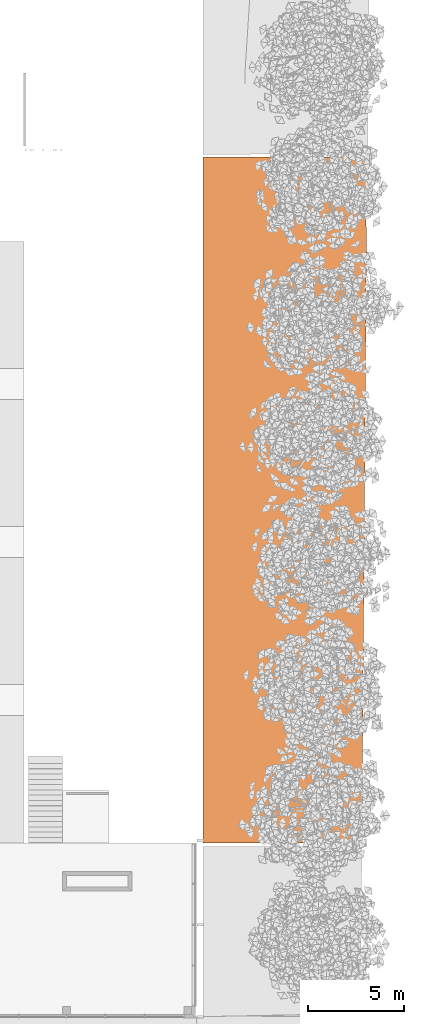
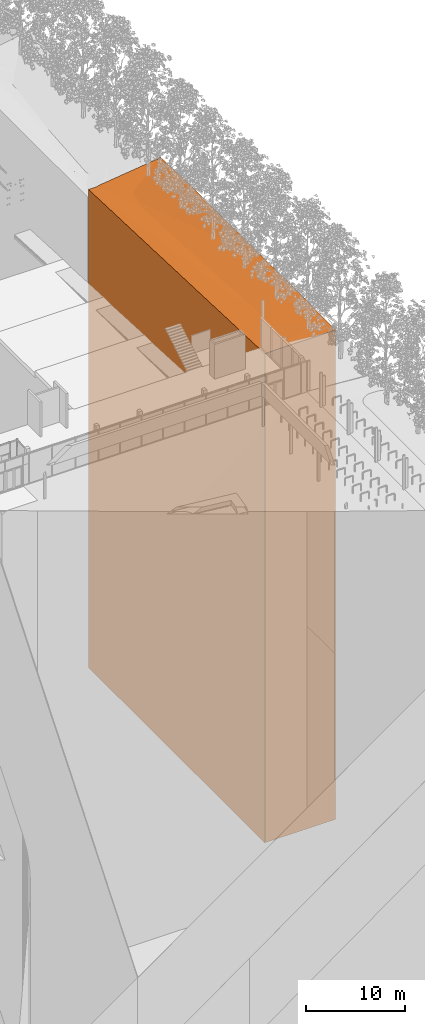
# One storey, part 58 of 69: 1 proxy.
"""IFC2X3 building model written with IfcOpenShell, lengths in millimetres."""

from ifc_helpers import new_model, entity, si_unit, converted_unit, derived_unit, money_unit, direction, frame, origin_with_axes, place, context, subcontext, project, spatial, faceted_brep, material, type_object, element, save


model = new_model("IFC2X3")

# Units and contexts
model_context = context("Model", 3, precision=0.01, world=origin_with_axes(), true_north=direction((0.0, 1.0)))
body_context = subcontext(model_context, "Body", "Model", "MODEL_VIEW")
ifc_project = project(units=[si_unit("LENGTHUNIT", "METRE", prefix="MILLI"), si_unit("AREAUNIT", "SQUARE_METRE"), si_unit("VOLUMEUNIT", "CUBIC_METRE"), converted_unit("PLANEANGLEUNIT", "DEGREE", entity("IfcPlaneAngleMeasure", 0.0174532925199), si_unit("PLANEANGLEUNIT", "RADIAN"), dimensions=[0, 0, 0, 0, 0, 0, 0]), si_unit("SOLIDANGLEUNIT", "STERADIAN"), money_unit("EUR"), converted_unit("TIMEUNIT", "Year", entity("IfcTimeMeasure", 31556926.0), si_unit("TIMEUNIT", "SECOND"), dimensions=[0, 0, 1, 0, 0, 0, 0]), si_unit("MASSUNIT", "GRAM", prefix="KILO"), si_unit("THERMODYNAMICTEMPERATUREUNIT", "DEGREE_CELSIUS"), si_unit("LUMINOUSINTENSITYUNIT", "LUMEN"), si_unit("ENERGYUNIT", "JOULE", prefix="MEGA"), derived_unit("THERMALCONDUCTANCEUNIT", [(si_unit("POWERUNIT", "WATT"), 1), (si_unit("LENGTHUNIT", "METRE"), -1), (si_unit("THERMODYNAMICTEMPERATUREUNIT", "KELVIN"), -1)]), derived_unit("SPECIFICHEATCAPACITYUNIT", [(si_unit("ENERGYUNIT", "JOULE"), 1), (si_unit("MASSUNIT", "GRAM", prefix="KILO"), -1), (si_unit("THERMODYNAMICTEMPERATUREUNIT", "KELVIN"), -1)]), derived_unit("MASSDENSITYUNIT", [(si_unit("MASSUNIT", "GRAM", prefix="KILO"), 1), (si_unit("VOLUMEUNIT", "CUBIC_METRE"), -1)])], contexts=[model_context])

# Site, building, storey
site_placement = place(None, origin_with_axes())
site = spatial("IfcSite", under=ifc_project, at=site_placement, Name="Puškini 31, Narva", CompositionType="ELEMENT")
building_placement = place(site_placement, origin_with_axes())
building = spatial("IfcBuilding", under=site, at=building_placement, Name="Narva Riigigümnaasium", CompositionType="ELEMENT")
storey_placement = place(building_placement, origin_with_axes())
storey = spatial("IfcBuildingStorey", under=building, at=storey_placement, Name="1.korrus 0.00", CompositionType="ELEMENT", Elevation=0.0)

# Proxy
ifc_material = material(Name="Roheala")
building_element_proxy_type = type_object("IfcBuildingElementProxyType", Name="Roheala", PredefinedType="NOTDEFINED")
proxy_placement = place(storey_placement, frame((54778.6694308, 158996.031273, -61100.0), z_axis=(0.0, 0.0, 1.0), x_axis=(1.0, 0.0, 0.0)))
element("IfcBuildingElementProxy", 1, at=proxy_placement, inside=storey, type_object=building_element_proxy_type, material=ifc_material, Name="Roheala", context=body_context, shape_type="Brep", body=[
    faceted_brep([(3500.49904039, 31978.4516737, 58700.0), (3547.46548911, 32819.027332, 58700.0), (3094.74954853, 33146.2784232, 58700.0), (1672.0854149, 34165.5938571, 58700.0), (3131.45778245, 30387.4172015, 58700.0), (3458.85388956, 31334.3745493, 58700.0), (3887.26198258, 31401.5875902, 58800.0), (3981.19487992, 33082.7389069, 58800.0), (3075.76299861, 33737.2410875, 58800.0), (379.368384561, 35568.9687269, 58791.5800994), (310.353931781, 35568.9687269, 58800.0), (3149.17946646, 28219.5186449, 58800.0), (3803.97168068, 30113.4333396, 58800.0), (4274.02492453, 30824.7235059, 58900.0), (4414.9242706, 33346.4504808, 58900.0), (3056.7764487, 34328.2037526, 58900.0), (891.573820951, 35568.9687269, 58800.0), (810.14826884, 35568.9687269, 58790.8807867), (1.33055712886, 35568.9687269, 0.0), (1.33055712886, 35568.9687269, 58810.873961), (16.9692754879, 35568.9687269, 58811.5973403), (253.567385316, 35568.9687269, 58805.5881932), (269.252218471, 35568.9687269, 58805.0144908), (961.462900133, 35568.9687269, 58810.1925286), (1325.03397982, 35568.9687269, 58900.0), (2130.85725753, 35568.9687269, 59000.0), (2936.6805356, 35568.9687269, 59100.0), (2959.39697059, 35568.9687269, 59100.0), (3091.57896127, 35568.9687269, 59117.0641552), (3112.10713856, 35568.9687269, 59121.8775259), (3735.95055338, 35568.9687269, 59200.0), (4534.49594219, 35568.9687269, 59300.0), (5333.04133189, 35568.9687269, 59400.0), (5922.65307766, 35568.9687269, 59475.9672056), (5948.43821821, 35568.9687269, 59477.0647347), (6131.58672187, 35568.9687269, 59500.0), (6661.11931132, 35568.9687269, 59570.6824418), (6691.80889767, 35568.9687269, 59570.1553329), (6930.1321105, 35568.9687269, 59600.0), (7728.67750069, 35568.9687269, 59700.0), (7943.94349056, 35568.9687269, 59727.1685877), (7961.12930853, 35568.9687269, 59728.7887749), (8070.32501306, 35568.9687269, 59742.7837311), (8310.05816494, 35568.9687269, 59800.0), (8324.30829218, 35568.9687269, 59803.4010278), (8396.32664421, 35568.9687269, 59836.3291171), (8396.32664421, 35568.9687269, 0.0), (434.742834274, 33124.9188574, 58900.0), (3166.90115035, 26051.6200874, 58900.0), (4149.08947181, 28892.4921308, 58900.0), (4660.7878666, 30247.8594215, 59000.0), (4848.65366141, 33610.1620557, 59000.0), (3037.78989879, 34919.1664178, 59000.0), (1.33057097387, 2094.59260396, 0.0), (1.33057097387, 2094.59260396, 60086.3166758), (1.33057097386, 4712.40889269, 59986.6547017), (1.33057097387, 7330.22518131, 59900.0), (1.33057097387, 9948.04147087, 59786.2444599), (1.33057097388, 12565.8577595, 59685.855796), (1.33057097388, 15183.6740482, 59585.8137324), (1.33057097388, 17801.4903378, 59486.4683799), (136.17801538, 33389.0793941, 58900.0), (3018.803349, 35510.1290829, 59100.0), (5282.38305208, 33873.8736296, 59100.0), (5716.11244276, 34137.5852036, 59200.0), (6149.84183357, 34401.2967785, 59300.0), (6583.57122436, 34665.0083524, 59400.0), (7017.30061517, 34928.7199273, 59500.0), (7451.03000585, 35192.4315012, 59600.0), (7884.75939665, 35456.1430761, 59700.0), (7368.12846086, 26209.8108327, 59700.0), (7754.89140293, 25632.9467492, 59800.0), (8489.59896952, 31283.3744856, 59900.0), (8489.59896952, 31283.3744856, 0.0), (8304.72882972, 7017.25887513, 0.0), (8252.17241838, 2.80227528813, 0.0), (1537.20511946, 0.0, 0.0), (0.0, 0.0, 0.0), (725.680349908, 30249.6904239, 59000.0), (3184.62283425, 23883.7215308, 59000.0), (4494.20726294, 27671.5509221, 59000.0), (5047.55080855, 29670.9953371, 59100.0), (0.0, 0.0, 60158.52723), (2091.72232418, 2862.89758592, 60000.0), (3344.11799, 4372.63451964, 59900.0), (3053.18047437, 7247.86295314, 59800.0), (2762.24295886, 10123.0913876, 59700.0), (2471.30544334, 12998.319821, 59600.0), (2180.36792771, 15873.5482545, 59500.0), (19.4718076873, 20403.2558444, 59386.0), (112.836773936, 30791.9146843, 59000.0), (5434.31375063, 29094.1312537, 59200.0), (5821.07669269, 28517.2671693, 59300.0), (6207.83963464, 27940.4030849, 59400.0), (6594.60257684, 27363.5390014, 59500.0), (6981.36551879, 26786.6749171, 59600.0), (6910.03180081, 19124.9624589, 59700.0), (7255.14959194, 17904.0212501, 59800.0), (8425.65366879, 22889.8931906, 60000.0), (8369.01473359, 15455.44785, 60100.0), (8304.72882972, 7017.25887513, 60200.0), (8252.17241838, 2.80227528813, 60182.2306811), (1988.13030214, 0.188179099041, 60200.0), (1537.20511946, 0.0, 60200.0), (1016.6178653, 27374.4619895, 59100.0), (3202.34451826, 21715.8229742, 59100.0), (4839.32505407, 26450.6097133, 59100.0), (839.326658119, 1353.1606513, 60100.0), (3326.39630599, 6540.53307623, 59800.0), (3308.67462198, 8708.43163282, 59700.0), (1889.43041208, 18748.776688, 59400.0), (42.8130491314, 23000.4205542, 59288.9745078), (89.4955323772, 28194.7499746, 59091.4626953), (5184.44284518, 25229.6685036, 59200.0), (5529.56063631, 24008.7272949, 59300.0), (5874.67842744, 22787.7860861, 59400.0), (6219.79621857, 21566.8448774, 59500.0), (6564.91400968, 20345.9036677, 59600.0), (7600.26738318, 16683.0800414, 59900.0), (8141.65434489, 25056.0826649, 59900.0), (7945.38517419, 15462.1388317, 60000.0), (8290.50296532, 14241.1976229, 60100.0), (7446.03690303, 2227.11449389, 60200.0), (2346.81144156, 357.255184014, 60200.0), (1307.55538093, 24499.233556, 59200.0), (3220.06620228, 19547.9244176, 59200.0), (3011.68247394, 3034.1747414, 60000.0), (2679.24695763, 1695.71496225, 60100.0), (3290.95293809, 10876.3301903, 59600.0), (3273.23125419, 13044.2287469, 59500.0), (3255.50957018, 15212.1273035, 59400.0), (66.1542906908, 25597.5852639, 59186.0), (1598.49289657, 21624.0051225, 59300.0), (3237.78788616, 17380.0258601, 59300.0), (7903.58029139, 13122.0662068, 60100.0), (5623.84914058, 8747.35036277, 60000.0), (6078.73059865, 2942.2878355, 60100.0), (4711.42429439, 3657.46117803, 60000.0)], [[[0, 1, 2, 3, 4, 5]], [[6, 7, 1, 0]], [[1, 7, 8, 2]], [[2, 8, 3]], [[9, 10, 11, 4, 3]], [[4, 11, 12, 5]], [[0, 5, 12, 6]], [[7, 6, 13, 14]], [[8, 7, 14, 15]], [[3, 8, 16, 17]], [[18, 19, 20, 21, 22, 10, 9, 17, 16, 23, 24, 25, 26, 27, 28, 29, 30, 31, 32, 33, 34, 35, 36, 37, 38, 39, 40, 41, 42, 43, 44, 45, 46]], [[11, 10, 47, 48]], [[9, 3, 17]], [[12, 11, 48, 49]], [[13, 6, 12, 49]], [[13, 50, 51, 14]], [[15, 14, 51, 52]], [[8, 15, 24]], [[23, 16, 8]], [[53, 54, 55, 56, 57, 58, 59, 60, 19, 18]], [[19, 61, 20]], [[20, 61, 21]], [[21, 61, 22]], [[22, 61, 10]], [[23, 8, 24]], [[52, 25, 24, 15]], [[52, 62, 26, 25]], [[27, 26, 62]], [[27, 62, 28]], [[28, 62, 29]], [[63, 64, 30, 29, 62]], [[64, 65, 31, 30]], [[65, 66, 32, 31]], [[33, 32, 66]], [[34, 33, 66]], [[66, 67, 35, 34]], [[36, 35, 67]], [[37, 36, 67]], [[67, 68, 38, 37]], [[68, 69, 39, 38]], [[40, 39, 69]], [[41, 40, 69]], [[42, 41, 69]], [[42, 69, 70, 71, 43]], [[44, 43, 71]], [[45, 44, 71]], [[46, 45, 72, 73]], [[46, 73, 74, 75, 76, 77, 53, 18]], [[61, 47, 10]], [[78, 79, 48, 47]], [[80, 49, 48, 79]], [[49, 80, 50, 13]], [[50, 81, 63, 51]], [[51, 63, 62, 52]], [[77, 82, 54, 53]], [[54, 83, 55]], [[55, 84, 56]], [[56, 85, 57]], [[57, 86, 58]], [[58, 87, 59]], [[59, 88, 60]], [[89, 19, 60]], [[19, 90, 61]], [[63, 81, 91, 64]], [[64, 91, 92, 65]], [[65, 92, 93, 66]], [[66, 93, 94, 67]], [[67, 94, 95, 68]], [[68, 95, 70, 69]], [[71, 70, 96, 97]], [[72, 45, 71]], [[73, 72, 98, 99, 100, 74]], [[74, 100, 101, 75]], [[75, 101, 102, 103, 76]], [[76, 103, 82, 77]], [[90, 78, 47, 61]], [[78, 104, 105, 79]], [[106, 80, 79, 105]], [[80, 106, 81, 50]], [[54, 82, 107]], [[54, 107, 83]], [[84, 55, 83]], [[108, 56, 84]], [[85, 56, 108]], [[109, 57, 85]], [[86, 57, 109]], [[58, 86, 87]], [[59, 87, 88]], [[60, 88, 110]], [[111, 19, 89]], [[60, 110, 89]], [[90, 19, 112]], [[106, 113, 91, 81]], [[113, 114, 92, 91]], [[93, 92, 114, 115]], [[94, 93, 115, 116]], [[116, 117, 95, 94]], [[117, 96, 70, 95]], [[97, 96, 109, 108]], [[97, 118, 119, 71]], [[72, 71, 119]], [[72, 119, 98]], [[99, 98, 120, 121]], [[121, 100, 99]], [[100, 122, 101]], [[102, 101, 123]], [[102, 123, 103]], [[103, 107, 82]], [[90, 112, 78]], [[112, 104, 78]], [[105, 104, 124, 125]], [[113, 106, 105, 125]], [[126, 83, 107, 127]], [[84, 83, 126]], [[118, 97, 108, 84]], [[85, 108, 109]], [[86, 109, 128, 87]], [[129, 88, 87, 128]], [[130, 110, 88, 129]], [[131, 19, 111]], [[111, 89, 132]], [[89, 110, 132]], [[112, 19, 131]], [[114, 113, 125, 133]], [[115, 114, 133, 130]], [[130, 129, 116, 115]], [[117, 116, 129, 128]], [[96, 117, 128, 109]], [[118, 120, 98, 119]], [[134, 121, 120, 135]], [[100, 121, 134]], [[100, 134, 136, 122]], [[101, 122, 123]], [[107, 103, 123]], [[112, 131, 104]], [[131, 124, 104]], [[125, 124, 132, 133]], [[127, 107, 123]], [[137, 126, 127, 136]], [[84, 126, 137]], [[120, 118, 84, 135]], [[133, 132, 110, 130]], [[131, 111, 124]], [[111, 132, 124]], [[135, 137, 136, 134]], [[127, 123, 122, 136]], [[84, 137, 135]]]),
])

save(model, "model.ifc")
